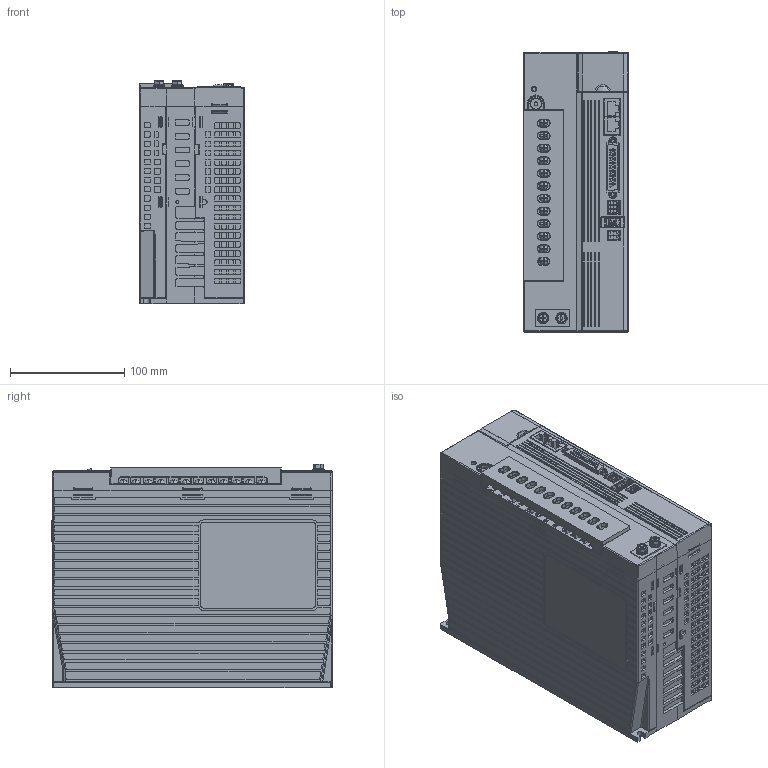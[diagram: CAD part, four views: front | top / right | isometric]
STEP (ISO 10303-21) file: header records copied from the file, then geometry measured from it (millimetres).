
FILE_DESCRIPTION((''),'2;1');
FILE_NAME('DA200A-N-021-T-2_SW0001','2024-03-18T16:35:17',('zhaihongyi'),(''),'CREO PARAMETRIC BY PTC INC, 2019080','CREO PARAMETRIC BY PTC INC, 2019080','');
FILE_SCHEMA(('AUTOMOTIVE_DESIGN { 1 0 10303 214 1 1 1 1 }'));
Products named in the file (1): DA200A-N-021-T-2_SW0001
Bounding box: 92.01 x 245.55 x 195.6 mm (x, y, z)
Volume: 3954850.5 mm3; surface area: 324748.2 mm2
Topology: 3 solids, 4 shells, 6736 faces, 18888 edges, 12376 vertices
Faces by surface type: plane 4131, cylinder 2157, cone 192, bspline 140, torus 61, sphere 48, extrusion 7
Entity records: 293383 total; most frequent: CARTESIAN_POINT 64086, ORIENTED_EDGE 37772, DIRECTION 33020, PRESENTATION_STYLE_ASSIGNMENT 18890, STYLED_ITEM 18890, CURVE_STYLE 18887, EDGE_CURVE 18886, VECTOR 13425
